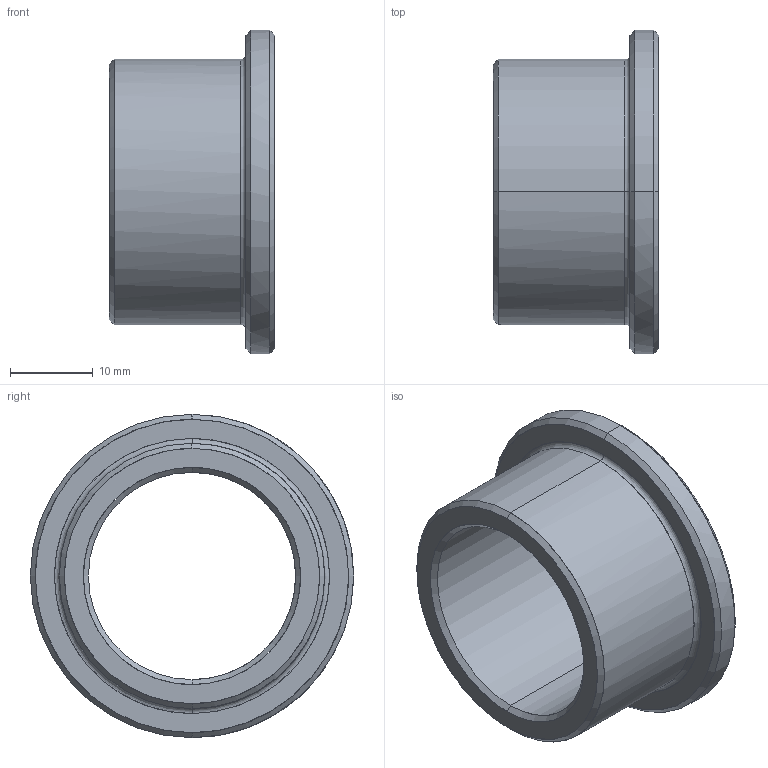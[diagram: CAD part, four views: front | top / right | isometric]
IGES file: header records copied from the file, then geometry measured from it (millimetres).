
Start section: START RECORD GO HERE.
Global section: file name: Coussinet_collerette39.igs; native system: IBM CATIA IGES - CATIA Version 5 Release 18 ; preprocessor: CATIA Version 5 Release 18 ; author: Propriétaire; organization: FUJITSU-79916BB; date: 20090111.190806; units: millimetre
Bounding box: 20 x 39 x 39 mm (x, y, z)
Surface area: 4863 mm2 (no closed solid volume)
Topology: 0 solids, 0 shells, 21 faces, 84 edges, 84 vertices
Faces by surface type: revolution 18, plane 3
